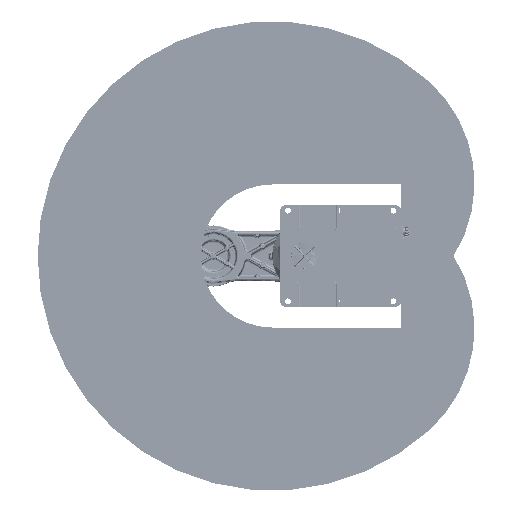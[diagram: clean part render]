
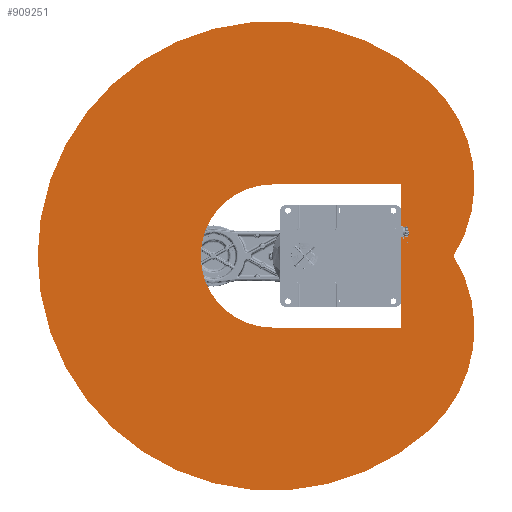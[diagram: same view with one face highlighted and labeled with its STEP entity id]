
A CAD part, front view. The second image highlights one B-rep face of the part: STEP entity #909251.
In plain terms, the highlighted planar face has unit normal (0, -1, 0) as drawn and (0, 0, 1) by its records, which use the part's own axes.
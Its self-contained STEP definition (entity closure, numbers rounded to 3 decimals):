
#7541 = LINE ( 'NONE', #518233, #361841 ) ;
#28557 = CARTESIAN_POINT ( 'NONE',  ( 0., 0., 200. ) ) ;
#55134 = DIRECTION ( 'NONE',  ( 0., 0., 1. ) ) ;
#55212 = ORIENTED_EDGE ( 'NONE', *, *, #862573, .T. ) ;
#59684 = EDGE_LOOP ( 'NONE', ( #816246, #556720, #109780, #263183, #274986 ) ) ;
#68378 = AXIS2_PLACEMENT_3D ( 'NONE', #183124, #678388, #254299 ) ;
#71767 = CARTESIAN_POINT ( 'NONE',  ( 167.283, 185.786, 200. ) ) ;
#74385 = VERTEX_POINT ( 'NONE', #208405 ) ;
#75462 = ORIENTED_EDGE ( 'NONE', *, *, #123148, .F. ) ;
#77497 = EDGE_CURVE ( 'NONE', #365708, #105313, #7541, .T. ) ;
#78371 = VECTOR ( 'NONE', #727612, 1000. ) ;
#83606 = AXIS2_PLACEMENT_3D ( 'NONE', #124052, #619264, #195076 ) ;
#99815 = DIRECTION ( 'NONE',  ( 1., 0., 0. ) ) ;
#105313 = VERTEX_POINT ( 'NONE', #802541 ) ;
#109780 = ORIENTED_EDGE ( 'NONE', *, *, #77497, .T. ) ;
#123148 = EDGE_CURVE ( 'NONE', #301498, #142478, #196532, .T. ) ;
#124052 = CARTESIAN_POINT ( 'NONE',  ( 167.283, -185.786, 200. ) ) ;
#139843 = CIRCLE ( 'NONE', #83606, 350. ) ;
#142478 = VERTEX_POINT ( 'NONE', #729381 ) ;
#143003 = DIRECTION ( 'NONE',  ( -1., 0., 0. ) ) ;
#145754 = AXIS2_PLACEMENT_3D ( 'NONE', #479213, #55134, #550446 ) ;
#165825 = EDGE_CURVE ( 'NONE', #424158, #74385, #495178, .T. ) ;
#183124 = CARTESIAN_POINT ( 'NONE',  ( 0., 0., 200. ) ) ;
#184921 = CARTESIAN_POINT ( 'NONE',  ( 401.478, 445.887, 200. ) ) ;
#185466 = DIRECTION ( 'NONE',  ( -1., 0., 0. ) ) ;
#195076 = DIRECTION ( 'NONE',  ( 1., 0., 0. ) ) ;
#196532 = CIRCLE ( 'NONE', #551797, 350. ) ;
#208405 = CARTESIAN_POINT ( 'NONE',  ( 0., -182.881, 200. ) ) ;
#231071 = VERTEX_POINT ( 'NONE', #709960 ) ;
#234145 = VECTOR ( 'NONE', #639698, 1000. ) ;
#234416 = CARTESIAN_POINT ( 'NONE',  ( 0., 0., 200. ) ) ;
#254299 = DIRECTION ( 'NONE',  ( 1., 0., 0. ) ) ;
#263183 = ORIENTED_EDGE ( 'NONE', *, *, #654830, .T. ) ;
#270715 = CARTESIAN_POINT ( 'NONE',  ( 330., 182.881, 200. ) ) ;
#274986 = ORIENTED_EDGE ( 'NONE', *, *, #165825, .F. ) ;
#297635 = CARTESIAN_POINT ( 'NONE',  ( -600., 0., 200. ) ) ;
#301498 = VERTEX_POINT ( 'NONE', #184921 ) ;
#305624 = DIRECTION ( 'NONE',  ( 1., 0., 0. ) ) ;
#354871 = CARTESIAN_POINT ( 'NONE',  ( 0., 182.881, 200. ) ) ;
#361841 = VECTOR ( 'NONE', #375839, 1000. ) ;
#365708 = VERTEX_POINT ( 'NONE', #270715 ) ;
#375839 = DIRECTION ( 'NONE',  ( 0., -1., 0. ) ) ;
#383125 = AXIS2_PLACEMENT_3D ( 'NONE', #891265, #609677, #185466 ) ;
#396016 = PLANE ( 'NONE',  #383125 ) ;
#418688 = ORIENTED_EDGE ( 'NONE', *, *, #799931, .T. ) ;
#422564 = LINE ( 'NONE', #354871, #234145 ) ;
#424158 = VERTEX_POINT ( 'NONE', #563439 ) ;
#425542 = EDGE_CURVE ( 'NONE', #694636, #365708, #422564, .T. ) ;
#475238 = CIRCLE ( 'NONE', #145754, 600. ) ;
#479213 = CARTESIAN_POINT ( 'NONE',  ( 0., 0., 200. ) ) ;
#495178 = CIRCLE ( 'NONE', #68378, 182.881 ) ;
#504607 = EDGE_CURVE ( 'NONE', #889145, #231071, #475238, .T. ) ;
#518233 = CARTESIAN_POINT ( 'NONE',  ( 330., 182.881, 200. ) ) ;
#523800 = DIRECTION ( 'NONE',  ( 0., 0., 1. ) ) ;
#541793 = AXIS2_PLACEMENT_3D ( 'NONE', #28557, #523800, #99815 ) ;
#550446 = DIRECTION ( 'NONE',  ( 1., 0., 0. ) ) ;
#551797 = AXIS2_PLACEMENT_3D ( 'NONE', #71767, #567041, #143003 ) ;
#556720 = ORIENTED_EDGE ( 'NONE', *, *, #425542, .T. ) ;
#563439 = CARTESIAN_POINT ( 'NONE',  ( -182.881, 0., 200. ) ) ;
#567041 = DIRECTION ( 'NONE',  ( 0., 0., -1. ) ) ;
#609677 = DIRECTION ( 'NONE',  ( 0., 0., -1. ) ) ;
#619264 = DIRECTION ( 'NONE',  ( 0., 0., 1. ) ) ;
#627085 = FACE_OUTER_BOUND ( 'NONE', #791549, .T. ) ;
#639698 = DIRECTION ( 'NONE',  ( 1., 0., 0. ) ) ;
#643216 = LINE ( 'NONE', #656519, #78371 ) ;
#654830 = EDGE_CURVE ( 'NONE', #105313, #74385, #643216, .T. ) ;
#656519 = CARTESIAN_POINT ( 'NONE',  ( 330., -182.881, 200. ) ) ;
#662868 = CARTESIAN_POINT ( 'NONE',  ( 0., 182.881, 200. ) ) ;
#678388 = DIRECTION ( 'NONE',  ( 0., 0., 1. ) ) ;
#694636 = VERTEX_POINT ( 'NONE', #662868 ) ;
#709960 = CARTESIAN_POINT ( 'NONE',  ( 401.478, -445.887, 200. ) ) ;
#719747 = AXIS2_PLACEMENT_3D ( 'NONE', #234416, #729633, #305624 ) ;
#727612 = DIRECTION ( 'NONE',  ( -1., 0., 0. ) ) ;
#729381 = CARTESIAN_POINT ( 'NONE',  ( 463.903, 0., 200. ) ) ;
#729633 = DIRECTION ( 'NONE',  ( 0., 0., 1. ) ) ;
#770842 = FACE_BOUND ( 'NONE', #59684, .T. ) ;
#791549 = EDGE_LOOP ( 'NONE', ( #75462, #418688, #889999, #55212 ) ) ;
#799931 = EDGE_CURVE ( 'NONE', #301498, #889145, #895307, .T. ) ;
#802541 = CARTESIAN_POINT ( 'NONE',  ( 330., -182.881, 200. ) ) ;
#816246 = ORIENTED_EDGE ( 'NONE', *, *, #842650, .F. ) ;
#842650 = EDGE_CURVE ( 'NONE', #694636, #424158, #888213, .T. ) ;
#862573 = EDGE_CURVE ( 'NONE', #231071, #142478, #139843, .T. ) ;
#888213 = CIRCLE ( 'NONE', #541793, 182.881 ) ;
#889145 = VERTEX_POINT ( 'NONE', #297635 ) ;
#889999 = ORIENTED_EDGE ( 'NONE', *, *, #504607, .T. ) ;
#891265 = CARTESIAN_POINT ( 'NONE',  ( 167.283, 0., 200. ) ) ;
#895307 = CIRCLE ( 'NONE', #719747, 600. ) ;
#909251 = ADVANCED_FACE ( 'NONE', ( #627085, #770842 ), #396016, .F. ) ;
